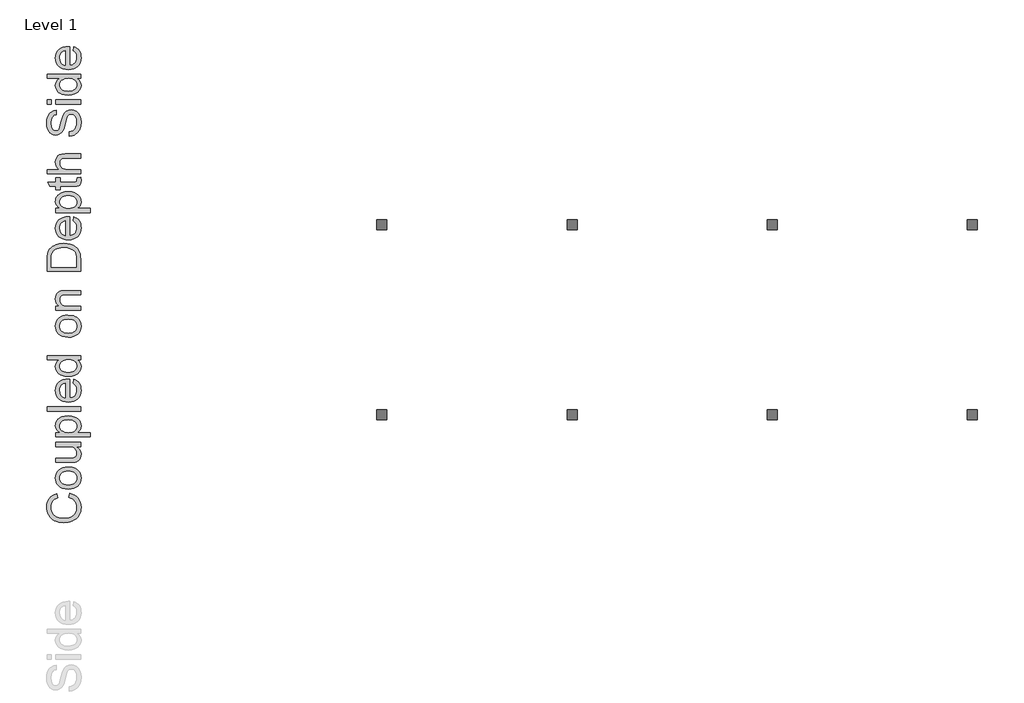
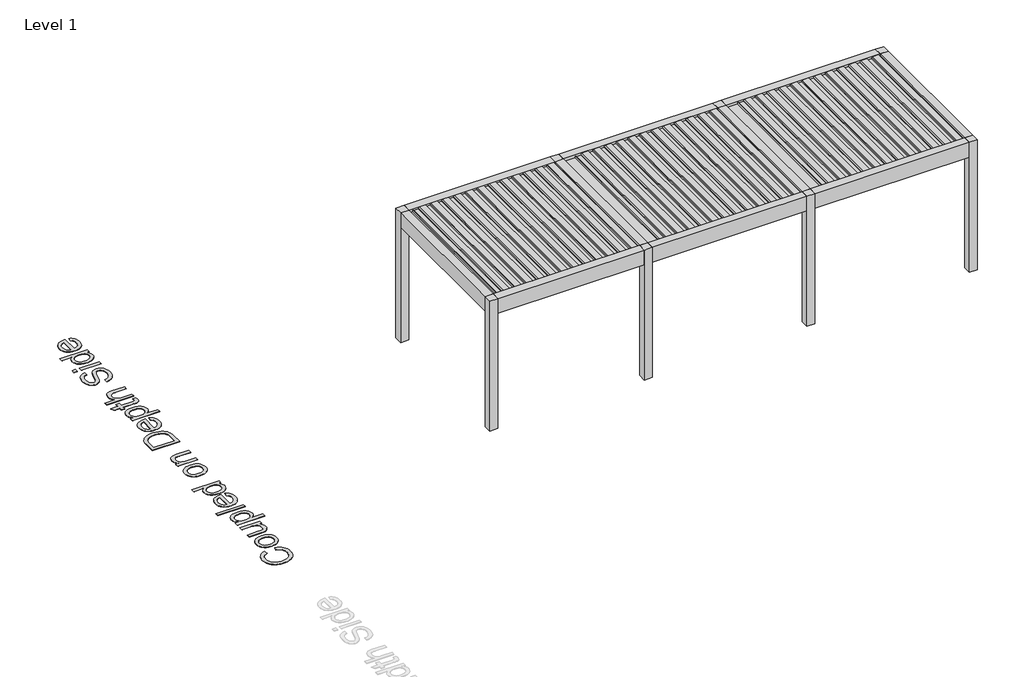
# One storey, part 42 of 80: 2 proxies.
"""IFC4 building model written with IfcOpenShell, lengths in millimetres."""

from ifc_helpers import new_model, si_unit, origin, origin_with_axes, place, context, project, spatial, polyline, outline, extrude, transform, mapped, element, save
from components import generic_models_78fd4a68

model = new_model("IFC4")

# Units and contexts
model_context = context("Model", 3, world=origin())
ifc_project = project(units=[si_unit("LENGTHUNIT", "METRE", prefix="MILLI")], contexts=[model_context])

# Site, building, storey
site = spatial("IfcSite", under=ifc_project)
building = spatial("IfcBuilding", under=site)
storey = spatial("IfcBuildingStorey", under=building, Name="Level 1", Elevation=0.0)

# Proxies
placement = place(None, origin())
generic_models_shape = generic_models_78fd4a68(model_context)
element("IfcBuildingElementProxy", 1, Name="Renson_Amani_Patio_Cover : Renson_Amani_Patio_Cover", ObjectType="Renson_Amani_Patio_Cover : Renson_Amani_Patio_Cover", at=placement, inside=storey, context=model_context, shape_type="MappedRepresentation", body=[
    mapped(generic_models_shape, transform((16953.165057, 55028.5861401, 0.0), x_axis=(1.0, 0.0, 0.0), y_axis=(0.0, 1.0, 0.0), z_axis=(0.0, 0.0, 1.0))),
])
element("IfcBuildingElementProxy", 2, Name="500mm Arial", ObjectType="500mm Arial", at=placement, inside=storey, context=model_context, shape_type="SweptSolid", body=[
    extrude(outline(polyline([(10834.4472638, 52366.9601072), (10850.6340716, 52429.7453011), (10889.6793805, 52417.3216195), (10923.7966034, 52400.7745939), (10952.9857405, 52380.1042243), (10977.2467916, 52355.3105107), (10996.3191738, 52326.9529402), (11009.942304, 52295.5910002), (11018.116182, 52261.2246904), (11020.8408081, 52223.8540111), (11018.779136, 52185.5674589), (11012.59412, 52151.0287045), (11002.2857599, 52120.2377479), (10987.8540558, 52093.1945891), (10969.5136055, 52069.5275141), (10947.4790069, 52048.8648087), (10921.7502598, 52031.206473), (10892.3273644, 52016.5525068), (10860.4825792, 52005.0446982), (10827.4881628, 51996.8248348), (10793.3441151, 51991.8929168), (10758.0504362, 51990.2489442), (10720.1815833, 51992.1075147), (10684.8112623, 51997.6832261), (10651.9394732, 52006.9760786), (10621.566216, 52019.9860721), (10594.1934963, 52036.4219667), (10570.3233197, 52055.9925224), (10549.9556863, 52078.6977393), (10533.0905961, 52104.5376173), (10519.8660048, 52132.6346047), (10510.4198682, 52162.1111496), (10504.7521862, 52192.9672519), (10502.8629589, 52225.2029118), (10505.3078413, 52261.1135594), (10512.6424886, 52294.0428301), (10524.8669007, 52323.9907238), (10541.9810777, 52350.9572404), (10563.5328312, 52374.497856), (10589.0699731, 52394.1680465), (10618.5925032, 52409.9678117), (10652.1004216, 52421.8971518), (10667.060956, 52359.111958), (10642.3707092, 52349.2251294), (10621.2749761, 52337.3456066), (10603.7737566, 52323.4733897), (10589.8670507, 52307.6084787), (10579.2712828, 52289.658903), (10571.7028772, 52269.5326922), (10567.1618338, 52247.2298462), (10565.6481527, 52222.7503651), (10567.3266143, 52194.5843999), (10572.3619991, 52168.824996), (10580.7543071, 52145.4721535), (10592.5035383, 52124.5258724), (10607.0808624, 52106.2505679), (10623.9574489, 52090.9106551), (10643.1332979, 52078.5061341), (10664.6084094, 52069.0370048), (10710.563002, 52057.0348547), (10757.9278088, 52053.034138), (10815.9305368, 52057.7706187), (10866.0851154, 52071.9800608), (10887.7403358, 52082.771266), (10906.4754928, 52096.1989588), (10922.2905865, 52112.2631392), (10935.1856169, 52130.9638073), (10952.3381149, 52172.6417717), (10958.0556142, 52217.6000172), (10956.1089053, 52244.8960948), (10950.2687787, 52270.0078731), (10940.5352342, 52292.935352), (10926.908272, 52313.6785316), (10909.4492056, 52331.7469025), (10888.2193488, 52346.6499554), (10863.2187015, 52358.3876903), (10834.4472638, 52366.9601072)])), origin_with_axes(), (0.0, 0.0, 1.0), 5.0),
    extrude(outline(polyline([(10828.5611519, 52492.5304949), (10780.790142, 52495.9257392), (10739.6256796, 52506.1114719), (10705.0677647, 52523.0876931), (10677.1163972, 52546.8544029), (10659.2511278, 52570.782061), (10646.4902211, 52597.1929225), (10638.8336771, 52626.0869876), (10636.2814958, 52657.4642561), (10639.3893322, 52692.1026452), (10648.7128415, 52723.4224321), (10664.2520237, 52751.4236169), (10686.0068788, 52776.1061995), (10713.2416427, 52796.2515709), (10745.2205516, 52810.6411218), (10781.9436053, 52819.2748524), (10823.410804, 52822.1527626), (10886.8397913, 52817.0637283), (10912.8751067, 52810.7024355), (10935.1243032, 52801.7966255), (10954.3423053, 52790.4574294), (10971.2840376, 52776.7959783), (10985.9495001, 52760.812272), (10998.3386927, 52742.5063106), (11015.2152792, 52701.7787081), (11020.8408081, 52657.4642561), (11017.7444679, 52622.3200292), (11008.4554476, 52590.7090024), (10992.9737469, 52562.6311755), (10971.299366, 52538.0865486), (10943.8001869, 52518.1557751), (10910.8440915, 52503.9195083), (10872.4310798, 52495.3777483), (10828.5611519, 52492.5304949)]), holes=[polyline([(10828.4385246, 52555.3156888), (10858.892256, 52557.1321061), (10885.2609644, 52562.5813582), (10907.5446499, 52571.6634449), (10925.7433123, 52584.3783664), (10939.8799444, 52599.8447386), (10949.9775387, 52617.1811776), (10956.0360954, 52636.3876834), (10958.0556142, 52657.4642561), (10956.024599, 52678.4335298), (10949.9315535, 52697.5633936), (10939.7764776, 52714.8538473), (10925.5593713, 52730.3048911), (10907.1806, 52743.0198126), (10884.5405289, 52752.1018993), (10857.639158, 52757.5511514), (10826.4764873, 52759.3675687), (10796.9884461, 52757.5396551), (10771.3095164, 52752.0559141), (10749.4396982, 52742.9163458), (10731.3789915, 52730.1209501), (10717.2423594, 52714.6124248), (10707.1447651, 52697.3334673), (10701.0862085, 52678.2840777), (10699.0666896, 52657.4642561), (10701.0785443, 52636.3876834), (10707.1141083, 52617.1811776), (10717.1733816, 52599.8447386), (10731.2563642, 52584.3783664), (10749.4013772, 52571.6634449), (10771.6467416, 52562.5813582), (10797.9924574, 52557.1321061), (10828.4385246, 52555.3156888)])]), origin_with_axes(), (0.0, 0.0, 1.0), 5.0),
    extrude(outline(polyline([(11012.9926588, 53128.2305826), (10949.5943283, 53128.2305826), (10980.7646632, 53105.5138694), (11003.0291881, 53079.0570226), (11016.3879031, 53048.8600421), (11020.8408081, 53014.9229281), (11017.7138111, 52984.3427372), (11008.3328202, 52955.8778678), (10994.2306771, 52931.996195), (10976.9402233, 52915.1655937), (10955.9402927, 52903.8378939), (10930.7097192, 52896.4649256), (10872.3391093, 52892.7861057), (10644.129645, 52892.7861057), (10644.129645, 52955.5712995), (10842.7859224, 52955.5712995), (10906.7973896, 52959.3727468), (10928.1498737, 52968.5238114), (10944.3826667, 52984.2047815), (10954.6373773, 53005.3733246), (10958.0556142, 53030.9871085), (10954.5607353, 53058.0724204), (10944.0760984, 53083.4102928), (10927.5673939, 53104.3029245), (10906.0003119, 53118.052514), (10876.4624534, 53125.6860654), (10836.0414192, 53128.2305826), (10644.129645, 53128.2305826), (10644.129645, 53191.0157764), (11012.9926588, 53191.0157764), (11012.9926588, 53128.2305826)])), origin_with_axes(), (0.0, 0.0, 1.0), 5.0),
    extrude(outline(polyline([(11154.259345, 53277.345418), (10644.129645, 53277.345418), (10644.129645, 53340.1306118), (10705.6885655, 53340.1306118), (10675.3229725, 53360.6093762), (10653.6332632, 53383.5406872), (10640.6194376, 53410.2734455), (10636.2814958, 53442.1565518), (10637.799009, 53464.0531947), (10642.3515487, 53484.6162654), (10649.9391148, 53503.8457639), (10660.5617075, 53521.7416901), (10673.943415, 53537.9131695), (10689.8083261, 53551.9693274), (10728.9877586, 53573.7356787), (10775.2489195, 53586.8874601), (10825.7407233, 53591.2713872), (10879.4361662, 53586.3203087), (10927.460095, 53571.4670731), (10948.735937, 53560.4459417), (10967.3752914, 53547.1868614), (10983.3781582, 53531.6898324), (10996.7445374, 53513.9548545), (11014.8167404, 53475.2506029), (11020.8408081, 53434.5536572), (11016.8094345, 53405.690249), (11004.7153139, 53379.9231809), (10986.4591699, 53357.8655897), (10963.9417261, 53340.1306118), (11154.259345, 53340.1306118), (11154.259345, 53277.345418)]), holes=[polyline([(10831.5042079, 53340.1306118), (10861.762502, 53341.8282339), (10887.7901531, 53346.9211003), (10909.5871614, 53355.4092109), (10927.1535266, 53367.2925658), (10940.6731899, 53381.5978104), (10950.3300923, 53397.3515905), (10956.1242337, 53414.5539058), (10958.0556142, 53433.2047566), (10956.0552559, 53452.1238546), (10950.0541808, 53469.6404025), (10940.0523891, 53485.7544003), (10926.0498806, 53500.465848), (10907.8473861, 53512.7247491), (10885.245636, 53521.481107), (10858.2446304, 53526.7349217), (10826.8443693, 53528.4861933), (10796.8466583, 53526.7770749), (10770.8649923, 53521.6497196), (10748.8993715, 53513.1041274), (10730.9497959, 53501.1402984), (10717.0009369, 53486.8005648), (10707.0374662, 53471.1272589), (10701.0593838, 53454.1203808), (10699.0666896, 53435.7799305), (10701.1858432, 53417.4969618), (10707.5433039, 53400.2946464), (10718.1390718, 53384.1729844), (10732.9731468, 53369.1319758), (10751.8462596, 53356.443879), (10774.5591407, 53347.3809528), (10801.1117901, 53341.943197), (10831.5042079, 53340.1306118)])]), origin_with_axes(), (0.0, 0.0, 1.0), 5.0),
    extrude(outline(polyline([(11012.9926588, 53661.9047302), (10510.7111081, 53661.9047302), (10510.7111081, 53724.6899241), (11012.9926588, 53724.6899241), (11012.9926588, 53661.9047302)])), origin_with_axes(), (0.0, 0.0, 1.0), 5.0),
    extrude(outline(polyline([(10903.1185696, 54077.1208755), (10910.9667188, 54138.679796), (10935.6224767, 54129.2413236), (10957.3505071, 54116.4995774), (10976.1508099, 54100.4545574), (10992.0233851, 54081.1062638), (11004.6310077, 54058.6539657), (11013.6364523, 54033.2969328), (11019.0397191, 54005.0351649), (11020.8408081, 53973.8686622), (11017.7329716, 53934.9114917), (11008.4094623, 53900.2002926), (10992.8702801, 53869.7350649), (10971.115425, 53843.5158085), (10943.7503696, 53822.4315717), (10911.3805861, 53807.3714025), (10874.0060746, 53798.335301), (10831.6268352, 53795.3232672), (10787.8105567, 53798.3659578), (10749.1906115, 53807.4940298), (10715.7669994, 53822.7074832), (10687.5397204, 53844.0063179), (10665.1142471, 53870.1565964), (10649.0960519, 53899.9243811), (10639.4851348, 53933.3096722), (10636.2814958, 53970.3124695), (10639.4774706, 54006.1234825), (10649.0653951, 54038.5085944), (10665.0452693, 54067.4678052), (10687.4170931, 54093.0011149), (10715.5830584, 54113.8439292), (10748.9453568, 54128.7316537), (10787.5039884, 54137.6642884), (10831.2589532, 54140.6418333), (10848.181525, 54140.2739513), (10848.181525, 53858.108461), (10873.2358217, 53861.7451278), (10895.1784499, 53868.9763083), (10914.0094095, 53879.8020024), (10929.7287006, 53894.2222102), (10942.1217253, 53911.439854), (10950.9738858, 53930.6578561), (10956.2851821, 53951.8762166), (10958.0556142, 53975.0949355), (10954.7753331, 54008.5108834), (10944.9344897, 54036.653856), (10927.9199474, 54059.5238534), (10903.1185696, 54077.1208755)]), holes=[polyline([(10785.3963312, 53858.108461), (10785.3963312, 54077.8566395), (10752.2256379, 54069.3646967), (10728.4972492, 54052.7180365), (10715.6213794, 54035.5961953), (10706.4243295, 54016.1137779), (10700.9060996, 53994.2707845), (10699.0666896, 53970.0672149), (10704.9374731, 53927.745457), (10712.2759525, 53909.3321967), (10722.5498236, 53892.7506822), (10735.2839056, 53878.8363122), (10750.0030175, 53868.4244853), (10766.7071594, 53861.5152016), (10785.3963312, 53858.108461)])]), origin_with_axes(), (0.0, 0.0, 1.0), 5.0),
    extrude(outline(polyline([(11012.9926588, 54431.0233548), (10953.7636576, 54431.0233548), (10983.1099109, 54412.2383805), (11004.0715205, 54389.4833462), (11016.6484862, 54362.7582521), (11020.8408081, 54332.0630981), (11014.7707551, 54291.4734513), (10996.5605964, 54254.3173698), (10967.4825903, 54222.8634592), (10928.8089956, 54199.3803252), (10882.1033106, 54184.7570159), (10828.9290339, 54179.8825795), (10776.4138791, 54184.3738055), (10728.9877586, 54197.8474836), (10707.8575365, 54207.94891), (10689.3484736, 54220.2882853), (10673.4605699, 54234.8656093), (10660.1938255, 54251.6808822), (10642.2595782, 54289.6493698), (10636.2814958, 54331.8178435), (10640.558124, 54362.5359901), (10653.3880085, 54389.697944), (10673.0543669, 54412.7212256), (10697.8404163, 54431.0233548), (10510.7111081, 54431.0233548), (10510.7111081, 54493.8085487), (11012.9926588, 54493.8085487), (11012.9926588, 54431.0233548)]), holes=[polyline([(10828.6837793, 54242.6677733), (10859.1298465, 54244.4382054), (10885.4755623, 54249.7495017), (10907.7209267, 54258.6016622), (10925.8659396, 54270.9946869), (10939.9489223, 54285.794273), (10950.0081956, 54301.8661177), (10956.0437596, 54319.2102209), (10958.0556142, 54337.8265827), (10956.1357301, 54356.5310829), (10950.3760776, 54373.7717193), (10940.7766568, 54389.548492), (10927.3374676, 54403.8614009), (10909.9512112, 54415.7447557), (10888.5105887, 54424.2328663), (10863.0156, 54429.3257327), (10833.4662452, 54431.0233548), (10801.069637, 54429.2950759), (10773.2868821, 54424.110239), (10750.1179807, 54415.4688442), (10731.5629325, 54403.3708915), (10717.3458263, 54388.7437501), (10707.1907503, 54372.5147892), (10701.0977048, 54354.6840087), (10699.0666896, 54335.2514088), (10701.0172306, 54316.267165), (10706.8688536, 54298.9230617), (10716.6215586, 54283.2190991), (10730.2753455, 54269.155277), (10748.1291186, 54257.5669941), (10770.4817819, 54249.2896492), (10797.3333355, 54244.3232423), (10828.6837793, 54242.6677733)])]), origin_with_axes(), (0.0, 0.0, 1.0), 5.0),
    extrude(outline(polyline([(10828.5611519, 54768.4937717), (10780.790142, 54771.889016), (10739.6256796, 54782.0747487), (10705.0677647, 54799.05097), (10677.1163972, 54822.8176797), (10659.2511278, 54846.7453378), (10646.4902211, 54873.1561994), (10638.8336771, 54902.0502644), (10636.2814958, 54933.4275329), (10639.3893322, 54968.065922), (10648.7128415, 54999.385709), (10664.2520237, 55027.3868937), (10686.0068788, 55052.0694764), (10713.2416427, 55072.2148477), (10745.2205516, 55086.6043987), (10781.9436053, 55095.2381292), (10823.410804, 55098.1160394), (10886.8397913, 55093.0270052), (10912.8751067, 55086.6657123), (10935.1243032, 55077.7599024), (10954.3423053, 55066.4207063), (10971.2840376, 55052.7592551), (10985.9495001, 55036.7755488), (10998.3386927, 55018.4695875), (11015.2152792, 54977.7419849), (11020.8408081, 54933.4275329), (11017.7444679, 54898.2833061), (11008.4554476, 54866.6722792), (10992.9737469, 54838.5944523), (10971.299366, 54814.0498255), (10943.8001869, 54794.119052), (10910.8440915, 54779.8827852), (10872.4310798, 54771.3410251), (10828.5611519, 54768.4937717)]), holes=[polyline([(10828.4385246, 54831.2789656), (10858.892256, 54833.0953829), (10885.2609644, 54838.544635), (10907.5446499, 54847.6267217), (10925.7433123, 54860.3416432), (10939.8799444, 54875.8080154), (10949.9775387, 54893.1444544), (10956.0360954, 54912.3509603), (10958.0556142, 54933.4275329), (10956.024599, 54954.3968066), (10949.9315535, 54973.5266704), (10939.7764776, 54990.8171242), (10925.5593713, 55006.268168), (10907.1806, 55018.9830894), (10884.5405289, 55028.0651762), (10857.639158, 55033.5144282), (10826.4764873, 55035.3308456), (10796.9884461, 55033.5029319), (10771.3095164, 55028.0191909), (10749.4396982, 55018.8796226), (10731.3789915, 55006.084227), (10717.2423594, 54990.5757016), (10707.1447651, 54973.2967441), (10701.0862085, 54954.2473546), (10699.0666896, 54933.4275329), (10701.0785443, 54912.3509603), (10707.1141083, 54893.1444544), (10717.1733816, 54875.8080154), (10731.2563642, 54860.3416432), (10749.4013772, 54847.6267217), (10771.6467416, 54838.544635), (10797.9924574, 54833.0953829), (10828.4385246, 54831.2789656)])]), origin_with_axes(), (0.0, 0.0, 1.0), 5.0),
    extrude(outline(polyline([(11012.9926588, 55168.7493825), (10644.129645, 55168.7493825), (10644.129645, 55231.5345763), (10695.6331243, 55231.5345763), (10669.6667868, 55253.346913), (10651.1194029, 55279.5431767), (10639.9909726, 55310.1233676), (10636.2814958, 55345.0874855), (10639.270537, 55376.0355584), (10648.2376606, 55404.3778004), (10662.0638923, 55428.0142186), (10679.6302575, 55444.8448199), (10700.8907712, 55456.2644901), (10725.7994479, 55463.6681153), (10786.4999771, 55466.9790532), (11012.9926588, 55466.9790532), (11012.9926588, 55404.1938594), (10794.961263, 55404.1938594), (10762.495677, 55402.3851063), (10739.4110818, 55396.9588468), (10722.8717204, 55386.9493909), (10710.0418358, 55371.3910482), (10701.8104762, 55351.4487783), (10699.0666896, 55328.2875411), (10700.6071955, 55309.2228231), (10705.228713, 55291.51467), (10712.9312423, 55275.1630817), (10723.7147833, 55260.1680583), (10738.8056093, 55247.6409099), (10759.4299937, 55238.6929468), (10785.5879364, 55233.324169), (10817.2794374, 55231.5345763), (11012.9926588, 55231.5345763), (11012.9926588, 55168.7493825)])), origin_with_axes(), (0.0, 0.0, 1.0), 5.0),
    extrude(outline(polyline([(11012.9926588, 55757.3605748), (10510.7111081, 55757.3605748), (10510.7111081, 55930.6329945), (10512.5198612, 55982.4123853), (10517.9461207, 56020.273574), (10531.8949796, 56060.3113978), (10553.8759289, 56094.0952277), (10571.840833, 56112.7115895), (10592.1356564, 56128.8294194), (10614.7603991, 56142.4487174), (10639.7150611, 56153.5694836), (10695.694438, 56168.3767339), (10759.1540822, 56173.312484), (10813.0641229, 56169.9708892), (10860.5055718, 56159.9461048), (10900.8959492, 56144.679002), (10933.6527752, 56125.6104519), (10959.5118138, 56103.6601596), (10979.2088289, 56079.7478299), (10993.8168098, 56052.294636), (11004.4087456, 56019.721751), (11010.8466805, 55981.9678612), (11012.9926588, 55938.9716531), (11012.9926588, 55757.3605748)]), holes=[polyline([(10950.207465, 55820.1457686), (10950.207465, 55931.2461312), (10947.9388594, 55977.2007237), (10941.1330424, 56012.0575428), (10930.1885531, 56038.3611054), (10915.5039301, 56058.6559288), (10888.3266477, 56080.4682655), (10853.1479319, 56096.8543427), (10809.8144986, 56107.1090533), (10758.1730635, 56110.5272901), (10721.7220892, 56108.8526606), (10689.7470124, 56103.8287721), (10662.2478333, 56095.4556247), (10639.2245517, 56083.7332182), (10620.1560017, 56069.6119145), (10604.5210169, 56054.0420755), (10592.3195973, 56037.0237011), (10583.5517431, 56018.5567913), (10576.0101622, 55982.4430422), (10573.4963019, 55929.5293485), (10573.4963019, 55820.1457686), (10950.207465, 55820.1457686)])]), origin_with_axes(), (0.0, 0.0, 1.0), 5.0),
    extrude(outline(polyline([(10903.1185696, 56510.0471369), (10910.9667188, 56571.6060574), (10935.6224767, 56562.167585), (10957.3505071, 56549.4258388), (10976.1508099, 56533.3808189), (10992.0233851, 56514.0325252), (11004.6310077, 56491.5802272), (11013.6364523, 56466.2231942), (11019.0397191, 56437.9614264), (11020.8408081, 56406.7949236), (11017.7329716, 56367.8377531), (11008.4094623, 56333.1265541), (10992.8702801, 56302.6613263), (10971.115425, 56276.44207), (10943.7503696, 56255.3578331), (10911.3805861, 56240.2976639), (10874.0060746, 56231.2615624), (10831.6268352, 56228.2495286), (10787.8105567, 56231.2922193), (10749.1906115, 56240.4202913), (10715.7669994, 56255.6337446), (10687.5397204, 56276.9325793), (10665.1142471, 56303.0828578), (10649.0960519, 56332.8506426), (10639.4851348, 56366.2359336), (10636.2814958, 56403.238731), (10639.4774706, 56439.0497439), (10649.0653951, 56471.4348558), (10665.0452693, 56500.3940666), (10687.4170931, 56525.9273764), (10715.5830584, 56546.7701907), (10748.9453568, 56561.6579151), (10787.5039884, 56570.5905498), (10831.2589532, 56573.5680947), (10848.181525, 56573.2002127), (10848.181525, 56291.0347224), (10873.2358217, 56294.6713893), (10895.1784499, 56301.9025697), (10914.0094095, 56312.7282638), (10929.7287006, 56327.1484716), (10942.1217253, 56344.3661154), (10950.9738858, 56363.5841176), (10956.2851821, 56384.8024781), (10958.0556142, 56408.0211969), (10954.7753331, 56441.4371448), (10944.9344897, 56469.5801174), (10927.9199474, 56492.4501148), (10903.1185696, 56510.0471369)]), holes=[polyline([(10785.3963312, 56291.0347224), (10785.3963312, 56510.7829009), (10752.2256379, 56502.2909582), (10728.4972492, 56485.6442979), (10715.6213794, 56468.5224567), (10706.4243295, 56449.0400394), (10700.9060996, 56427.1970459), (10699.0666896, 56402.9934763), (10704.9374731, 56360.6717184), (10712.2759525, 56342.2584582), (10722.5498236, 56325.6769437), (10735.2839056, 56311.7625736), (10750.0030175, 56301.3507467), (10766.7071594, 56294.441463), (10785.3963312, 56291.0347224)])]), origin_with_axes(), (0.0, 0.0, 1.0), 5.0),
    extrude(outline(polyline([(11154.259345, 56636.3532886), (10644.129645, 56636.3532886), (10644.129645, 56699.1384824), (10705.6885655, 56699.1384824), (10675.3229725, 56719.6172468), (10653.6332632, 56742.5485579), (10640.6194376, 56769.2813162), (10636.2814958, 56801.1644224), (10637.799009, 56823.0610653), (10642.3515487, 56843.624136), (10649.9391148, 56862.8536345), (10660.5617075, 56880.7495607), (10673.943415, 56896.9210401), (10689.8083261, 56910.977198), (10728.9877586, 56932.7435494), (10775.2489195, 56945.8953307), (10825.7407233, 56950.2792578), (10879.4361662, 56945.3281793), (10927.460095, 56930.4749437), (10948.735937, 56919.4538123), (10967.3752914, 56906.194732), (10983.3781582, 56890.697703), (10996.7445374, 56872.9627251), (11014.8167404, 56834.2584736), (11020.8408081, 56793.5615279), (11016.8094345, 56764.6981197), (11004.7153139, 56738.9310516), (10986.4591699, 56716.8734603), (10963.9417261, 56699.1384824), (11154.259345, 56699.1384824), (11154.259345, 56636.3532886)]), holes=[polyline([(10831.5042079, 56699.1384824), (10861.762502, 56700.8361046), (10887.7901531, 56705.9289709), (10909.5871614, 56714.4170815), (10927.1535266, 56726.3004364), (10940.6731899, 56740.6056811), (10950.3300923, 56756.3594611), (10956.1242337, 56773.5617765), (10958.0556142, 56792.2126272), (10956.0552559, 56811.1317252), (10950.0541808, 56828.6482731), (10940.0523891, 56844.762271), (10926.0498806, 56859.4737187), (10907.8473861, 56871.7326197), (10885.245636, 56880.4889776), (10858.2446304, 56885.7427924), (10826.8443693, 56887.494064), (10796.8466583, 56885.7849455), (10770.8649923, 56880.6575902), (10748.8993715, 56872.111998), (10730.9497959, 56860.148169), (10717.0009369, 56845.8084354), (10707.0374662, 56830.1351295), (10701.0593838, 56813.1282515), (10699.0666896, 56794.7878012), (10701.1858432, 56776.5048324), (10707.5433039, 56759.3025171), (10718.1390718, 56743.180855), (10732.9731468, 56728.1398464), (10751.8462596, 56715.4517497), (10774.5591407, 56706.3888234), (10801.1117901, 56700.9510677), (10831.5042079, 56699.1384824)])]), origin_with_axes(), (0.0, 0.0, 1.0), 5.0),
    extrude(outline(polyline([(10960.6307882, 57154.3311378), (11014.8320688, 57162.179287), (11020.8408081, 57115.213019), (11018.2349773, 57085.0773522), (11010.4174849, 57062.6058937), (10998.3693495, 57046.7256542), (10983.0715899, 57036.3636447), (10956.7986841, 57030.6614737), (10911.8251102, 57028.7607501), (10706.9148388, 57028.7607501), (10706.9148388, 56981.6718547), (10644.129645, 56981.6718547), (10644.129645, 57028.7607501), (10554.4890655, 57028.7607501), (10517.5782387, 57091.5459439), (10644.129645, 57091.5459439), (10644.129645, 57154.3311378), (10706.9148388, 57154.3311378), (10706.9148388, 57091.5459439), (10909.9857002, 57091.5459439), (10942.3593158, 57094.8568819), (10953.8249713, 57105.5867734), (10958.0556142, 57126.9852428), (10960.6307882, 57154.3311378)])), origin_with_axes(), (0.0, 0.0, 1.0), 5.0),
    extrude(outline(polyline([(11012.9926588, 57217.1163316), (10510.7111081, 57217.1163316), (10510.7111081, 57279.9015255), (10695.3878697, 57279.9015255), (10669.5288311, 57302.9631281), (10651.0580892, 57328.8604877), (10639.9756441, 57357.5936043), (10636.2814958, 57389.162478), (10640.3128693, 57427.0849804), (10652.4069899, 57459.6731938), (10671.6134957, 57485.332963), (10696.982025, 57502.4701326), (10731.838844, 57512.1270349), (10779.5102192, 57515.3460024), (11012.9926588, 57515.3460024), (11012.9926588, 57452.5608085), (10786.0094678, 57452.5608085), (10746.707408, 57447.5637448), (10731.7008883, 57441.3174151), (10719.7907087, 57432.5725535), (10710.7239503, 57421.5360936), (10704.2476944, 57408.4149691), (10699.0666896, 57375.9187262), (10702.5615686, 57349.3852373), (10713.0462054, 57324.4765606), (10729.5089247, 57303.844512), (10750.9380509, 57290.1409077), (10779.4182487, 57282.461371), (10817.0341827, 57279.9015255), (11012.9926588, 57279.9015255), (11012.9926588, 57217.1163316)])), origin_with_axes(), (0.0, 0.0, 1.0), 5.0),
    extrude(outline(polyline([(10840.3333758, 57782.1830762), (10840.3333758, 57844.9682701), (10875.1748664, 57852.1726258), (10903.1798833, 57865.2017798), (10925.4060871, 57885.52726), (10942.9111388, 57914.6205945), (10954.2694954, 57950.1825207), (10958.0556142, 57989.9137762), (10955.1892003, 58024.8932225), (10946.5899587, 58055.5193986), (10932.9783249, 58080.3361049), (10915.0747345, 58097.8871418), (10894.519328, 58108.3257934), (10872.952246, 58111.8053439), (10851.936987, 58109.1995131), (10833.7728135, 58101.3820207), (10818.2757845, 58085.5017813), (10805.2619589, 58058.7077093), (10781.2883155, 57967.2890335), (10765.4234045, 57907.278283), (10750.3249143, 57868.8805998), (10729.2023564, 57837.6259586), (10703.6039009, 57815.4763968), (10674.0813708, 57802.2786302), (10641.186589, 57797.8793747), (10604.4137179, 57803.3209625), (10570.1240503, 57819.6457261), (10554.5963644, 57831.7819998), (10541.0613727, 57846.4244696), (10519.9694716, 57883.2279976), (10507.139587, 57927.4044938), (10502.8629589, 57976.3021423), (10507.3388565, 58029.2771497), (10520.7665493, 58075.630281), (10542.8701258, 58113.7060675), (10557.0719037, 58129.0191556), (10573.3736746, 58141.8490402), (10610.3764719, 58159.6606601), (10651.9777942, 58166.7423885), (10651.9777942, 58103.9571947), (10631.9435539, 58099.7572086), (10614.5151444, 58092.4302255), (10599.6925657, 58081.9762455), (10587.4758177, 58068.3952685), (10577.9262143, 58051.4343757), (10571.105069, 58030.8406481), (10565.6481527, 57978.754689), (10571.0437553, 57925.4424565), (10577.7882585, 57905.0633268), (10587.2305631, 57888.8688548), (10598.5812555, 57876.5294796), (10611.0509223, 57867.7156401), (10624.6395635, 57862.4273364), (10639.3471791, 57860.6645685), (10663.4741066, 57865.6616323), (10682.8798818, 57880.6528236), (10691.5097803, 57894.4177416), (10700.2316493, 57916.0921225), (10717.9512987, 57983.1692729), (10734.7819, 58052.3924017), (10749.466523, 58094.2696355), (10772.2445498, 58130.0614879), (10800.3568656, 58155.0314783), (10833.496902, 58169.7007729), (10871.3580907, 58174.5905377), (10910.0623423, 58168.9650089), (10946.4673314, 58152.0884224), (10977.7986146, 58124.6505569), (11001.2817487, 58087.3411912), (11015.9510432, 58042.4749162), (11020.8408081, 57992.3663228), (11015.5678328, 57930.8533875), (11008.9766137, 57904.1781108), (10999.748907, 57880.2236279), (10987.8693842, 57858.8443191), (10973.322717, 57839.8945642), (10956.1089053, 57823.3743634), (10936.2279492, 57809.2837165), (10914.323642, 57797.9330241), (10891.0397774, 57789.6326866), (10866.3763553, 57784.382704), (10840.3333758, 57782.1830762)])), origin_with_axes(), (0.0, 0.0, 1.0), 5.0),
    extrude(outline(polyline([(10573.4963019, 58260.9201793), (10510.7111081, 58260.9201793), (10510.7111081, 58323.7053731), (10573.4963019, 58323.7053731), (10573.4963019, 58260.9201793)])), origin_with_axes(), (0.0, 0.0, 1.0), 5.0),
    extrude(outline(polyline([(11012.9926588, 58260.9201793), (10644.129645, 58260.9201793), (10644.129645, 58323.7053731), (11012.9926588, 58323.7053731), (11012.9926588, 58260.9201793)])), origin_with_axes(), (0.0, 0.0, 1.0), 5.0),
    extrude(outline(polyline([(11012.9926588, 58645.4794916), (10953.7636576, 58645.4794916), (10983.1099109, 58626.6945172), (11004.0715205, 58603.939483), (11016.6484862, 58577.2143888), (11020.8408081, 58546.5192349), (11014.7707551, 58505.9295881), (10996.5605964, 58468.7735066), (10967.4825903, 58437.319596), (10928.8089956, 58413.8364619), (10882.1033106, 58399.2131526), (10828.9290339, 58394.3387162), (10776.4138791, 58398.8299422), (10728.9877586, 58412.3036203), (10707.8575365, 58422.4050468), (10689.3484736, 58434.744422), (10673.4605699, 58449.3217461), (10660.1938255, 58466.1370189), (10642.2595782, 58504.1055065), (10636.2814958, 58546.2739802), (10640.558124, 58576.9921268), (10653.3880085, 58604.1540808), (10673.0543669, 58627.1773623), (10697.8404163, 58645.4794916), (10510.7111081, 58645.4794916), (10510.7111081, 58708.2646854), (11012.9926588, 58708.2646854), (11012.9926588, 58645.4794916)]), holes=[polyline([(10828.6837793, 58457.12391), (10859.1298465, 58458.8943421), (10885.4755623, 58464.2056385), (10907.7209267, 58473.057799), (10925.8659396, 58485.4508237), (10939.9489223, 58500.2504098), (10950.0081956, 58516.3222544), (10956.0437596, 58533.6663577), (10958.0556142, 58552.2827195), (10956.1357301, 58570.9872197), (10950.3760776, 58588.2278561), (10940.7766568, 58604.0046287), (10927.3374676, 58618.3175376), (10909.9512112, 58630.2008925), (10888.5105887, 58638.6890031), (10863.0156, 58643.7818695), (10833.4662452, 58645.4794916), (10801.069637, 58643.7512126), (10773.2868821, 58638.5663757), (10750.1179807, 58629.924981), (10731.5629325, 58617.8270283), (10717.3458263, 58603.1998869), (10707.1907503, 58586.9709259), (10701.0977048, 58569.1401455), (10699.0666896, 58549.7075455), (10701.0172306, 58530.7233017), (10706.8688536, 58513.3791985), (10716.6215586, 58497.6752358), (10730.2753455, 58483.6114137), (10748.1291186, 58472.0231308), (10770.4817819, 58463.745786), (10797.3333355, 58458.779379), (10828.6837793, 58457.12391)])]), origin_with_axes(), (0.0, 0.0, 1.0), 5.0),
    extrude(outline(polyline([(10903.1185696, 59060.6956368), (10910.9667188, 59122.2545573), (10935.6224767, 59112.8160849), (10957.3505071, 59100.0743387), (10976.1508099, 59084.0293188), (10992.0233851, 59064.6810251), (11004.6310077, 59042.2287271), (11013.6364523, 59016.8716941), (11019.0397191, 58988.6099263), (11020.8408081, 58957.4434235), (11017.7329716, 58918.486253), (11008.4094623, 58883.775054), (10992.8702801, 58853.3098262), (10971.115425, 58827.0905699), (10943.7503696, 58806.006333), (10911.3805861, 58790.9461638), (10874.0060746, 58781.9100623), (10831.6268352, 58778.8980285), (10787.8105567, 58781.9407192), (10749.1906115, 58791.0687912), (10715.7669994, 58806.2822445), (10687.5397204, 58827.5810792), (10665.1142471, 58853.7313577), (10649.0960519, 58883.4991425), (10639.4851348, 58916.8844335), (10636.2814958, 58953.8872309), (10639.4774706, 58989.6982438), (10649.0653951, 59022.0833557), (10665.0452693, 59051.0425665), (10687.4170931, 59076.5758763), (10715.5830584, 59097.4186905), (10748.9453568, 59112.306415), (10787.5039884, 59121.2390497), (10831.2589532, 59124.2165946), (10848.181525, 59123.8487126), (10848.181525, 58841.6832223), (10873.2358217, 58845.3198891), (10895.1784499, 58852.5510696), (10914.0094095, 58863.3767637), (10929.7287006, 58877.7969715), (10942.1217253, 58895.0146153), (10950.9738858, 58914.2326175), (10956.2851821, 58935.450978), (10958.0556142, 58958.6696968), (10954.7753331, 58992.0856447), (10944.9344897, 59020.2286173), (10927.9199474, 59043.0986147), (10903.1185696, 59060.6956368)]), holes=[polyline([(10785.3963312, 58841.6832223), (10785.3963312, 59061.4314008), (10752.2256379, 59052.9394581), (10728.4972492, 59036.2927978), (10715.6213794, 59019.1709566), (10706.4243295, 58999.6885393), (10700.9060996, 58977.8455458), (10699.0666896, 58953.6419762), (10704.9374731, 58911.3202183), (10712.2759525, 58892.9069581), (10722.5498236, 58876.3254435), (10735.2839056, 58862.4110735), (10750.0030175, 58851.9992466), (10766.7071594, 58845.0899629), (10785.3963312, 58841.6832223)])]), origin_with_axes(), (0.0, 0.0, 1.0), 5.0),
])

save(model, "model.ifc")
